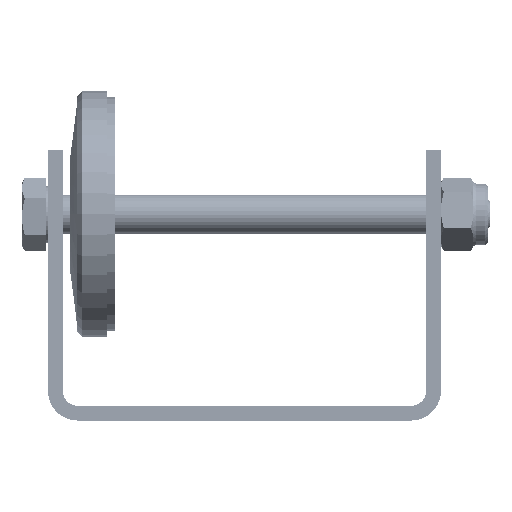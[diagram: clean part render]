
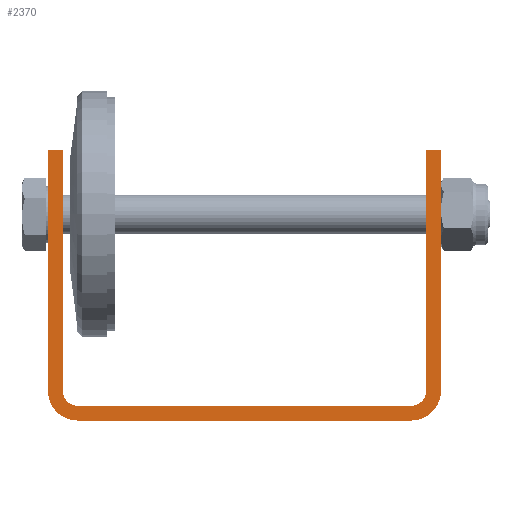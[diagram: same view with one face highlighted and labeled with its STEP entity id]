
A CAD part, front view. The second image highlights one B-rep face of the part: STEP entity #2370.
In plain terms, the highlighted planar face has unit normal (0, -1, 0).
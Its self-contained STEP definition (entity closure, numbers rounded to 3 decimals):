
#2370 = ADVANCED_FACE( '', ( #4983 ), #4984, .T. );
#4983 = FACE_OUTER_BOUND( '', #7290, .T. );
#4984 = PLANE( '', #7291 );
#7290 = EDGE_LOOP( '', ( #10584, #10585, #10586, #10587, #10588, #10589, #10590, #10591, #10592, #10593, #10594, #10595 ) );
#7291 = AXIS2_PLACEMENT_3D( '', #10596, #10597, #10598 );
#10584 = ORIENTED_EDGE( '', *, *, #11553, .T. );
#10585 = ORIENTED_EDGE( '', *, *, #11618, .T. );
#10586 = ORIENTED_EDGE( '', *, *, #11404, .T. );
#10587 = ORIENTED_EDGE( '', *, *, #11218, .T. );
#10588 = ORIENTED_EDGE( '', *, *, #11985, .T. );
#10589 = ORIENTED_EDGE( '', *, *, #12060, .F. );
#10590 = ORIENTED_EDGE( '', *, *, #11607, .F. );
#10591 = ORIENTED_EDGE( '', *, *, #11935, .F. );
#10592 = ORIENTED_EDGE( '', *, *, #11898, .F. );
#10593 = ORIENTED_EDGE( '', *, *, #11201, .F. );
#10594 = ORIENTED_EDGE( '', *, *, #11286, .F. );
#10595 = ORIENTED_EDGE( '', *, *, #11798, .T. );
#10596 = CARTESIAN_POINT( '', ( 40., 0., 0. ) );
#10597 = DIRECTION( '', ( 0., -1., 0. ) );
#10598 = DIRECTION( '', ( 0., 0., -1. ) );
#11201 = EDGE_CURVE( '', #12714, #12716, #12717, .F. );
#11218 = EDGE_CURVE( '', #12744, #12742, #12745, .T. );
#11286 = EDGE_CURVE( '', #12871, #12714, #12873, .T. );
#11404 = EDGE_CURVE( '', #13107, #12744, #13108, .T. );
#11553 = EDGE_CURVE( '', #13357, #13355, #13358, .T. );
#11607 = EDGE_CURVE( '', #13461, #13463, #13464, .T. );
#11618 = EDGE_CURVE( '', #13355, #13107, #13479, .T. );
#11798 = EDGE_CURVE( '', #12871, #13357, #13728, .T. );
#11898 = EDGE_CURVE( '', #12716, #13903, #13904, .T. );
#11935 = EDGE_CURVE( '', #13903, #13461, #13947, .F. );
#11985 = EDGE_CURVE( '', #12742, #14020, #14022, .T. );
#12060 = EDGE_CURVE( '', #13463, #14020, #14101, .T. );
#12714 = VERTEX_POINT( '', #14984 );
#12716 = VERTEX_POINT( '', #14987 );
#12717 = CIRCLE( '', #14988, 6. );
#12742 = VERTEX_POINT( '', #15024 );
#12744 = VERTEX_POINT( '', #15027 );
#12745 = CIRCLE( '', #15028, 3. );
#12871 = VERTEX_POINT( '', #15160 );
#12873 = LINE( '', #15163, #15164 );
#13107 = VERTEX_POINT( '', #15398 );
#13108 = LINE( '', #15399, #15400 );
#13355 = VERTEX_POINT( '', #15704 );
#13357 = VERTEX_POINT( '', #15707 );
#13358 = LINE( '', #15708, #15709 );
#13461 = VERTEX_POINT( '', #15813 );
#13463 = VERTEX_POINT( '', #15816 );
#13464 = LINE( '', #15817, #15818 );
#13479 = CIRCLE( '', #15834, 3. );
#13728 = LINE( '', #16171, #16172 );
#13903 = VERTEX_POINT( '', #16347 );
#13904 = LINE( '', #16348, #16349 );
#13947 = CIRCLE( '', #16394, 6. );
#14020 = VERTEX_POINT( '', #16474 );
#14022 = LINE( '', #16477, #16478 );
#14101 = LINE( '', #16575, #16576 );
#14984 = CARTESIAN_POINT( '', ( 40., 0., 6. ) );
#14987 = CARTESIAN_POINT( '', ( 34., 0., 0. ) );
#14988 = AXIS2_PLACEMENT_3D( '', #17234, #17235, #17236 );
#15024 = CARTESIAN_POINT( '', ( -37., 0., 6. ) );
#15027 = CARTESIAN_POINT( '', ( -34., 0., 3. ) );
#15028 = AXIS2_PLACEMENT_3D( '', #17260, #17261, #17262 );
#15160 = CARTESIAN_POINT( '', ( 40., 0., 55. ) );
#15163 = CARTESIAN_POINT( '', ( 40., 0., 0. ) );
#15164 = VECTOR( '', #17442, 1000. );
#15398 = CARTESIAN_POINT( '', ( 34., 0., 3. ) );
#15399 = CARTESIAN_POINT( '', ( -40., 0., 3. ) );
#15400 = VECTOR( '', #17791, 1000. );
#15704 = CARTESIAN_POINT( '', ( 37., 0., 6. ) );
#15707 = CARTESIAN_POINT( '', ( 37., 0., 55. ) );
#15708 = CARTESIAN_POINT( '', ( 37., 0., 0. ) );
#15709 = VECTOR( '', #18076, 1000. );
#15813 = CARTESIAN_POINT( '', ( -40., 0., 6. ) );
#15816 = CARTESIAN_POINT( '', ( -40., 0., 55. ) );
#15817 = CARTESIAN_POINT( '', ( -40., 0., 0. ) );
#15818 = VECTOR( '', #18229, 1000. );
#15834 = AXIS2_PLACEMENT_3D( '', #18243, #18244, #18245 );
#16171 = CARTESIAN_POINT( '', ( 40., 0., 55. ) );
#16172 = VECTOR( '', #18448, 1000. );
#16347 = CARTESIAN_POINT( '', ( -34., 0., 0. ) );
#16348 = CARTESIAN_POINT( '', ( -40., 0., 0. ) );
#16349 = VECTOR( '', #18674, 1000. );
#16394 = AXIS2_PLACEMENT_3D( '', #18701, #18702, #18703 );
#16474 = CARTESIAN_POINT( '', ( -37., 0., 55. ) );
#16477 = CARTESIAN_POINT( '', ( -37., 0., 0. ) );
#16478 = VECTOR( '', #18773, 1000. );
#16575 = CARTESIAN_POINT( '', ( -40., 0., 55. ) );
#16576 = VECTOR( '', #18790, 1000. );
#17234 = CARTESIAN_POINT( '', ( 34., 0., 6. ) );
#17235 = DIRECTION( '', ( 0., -1., 0. ) );
#17236 = DIRECTION( '', ( 0., 0., -1. ) );
#17260 = CARTESIAN_POINT( '', ( -34., 0., 6. ) );
#17261 = DIRECTION( '', ( 0., 1., 0. ) );
#17262 = DIRECTION( '', ( 0., 0., 1. ) );
#17442 = DIRECTION( '', ( 0., 0., -1. ) );
#17791 = DIRECTION( '', ( -1., 0., 0. ) );
#18076 = DIRECTION( '', ( 0., 0., -1. ) );
#18229 = DIRECTION( '', ( 0., 0., 1. ) );
#18243 = CARTESIAN_POINT( '', ( 34., 0., 6. ) );
#18244 = DIRECTION( '', ( 0., 1., 0. ) );
#18245 = DIRECTION( '', ( 0., 0., 1. ) );
#18448 = DIRECTION( '', ( -1., 0., 0. ) );
#18674 = DIRECTION( '', ( -1., 0., 0. ) );
#18701 = CARTESIAN_POINT( '', ( -34., 0., 6. ) );
#18702 = DIRECTION( '', ( 0., -1., 0. ) );
#18703 = DIRECTION( '', ( 0., 0., -1. ) );
#18773 = DIRECTION( '', ( 0., 0., 1. ) );
#18790 = DIRECTION( '', ( 1., 0., 0. ) );
